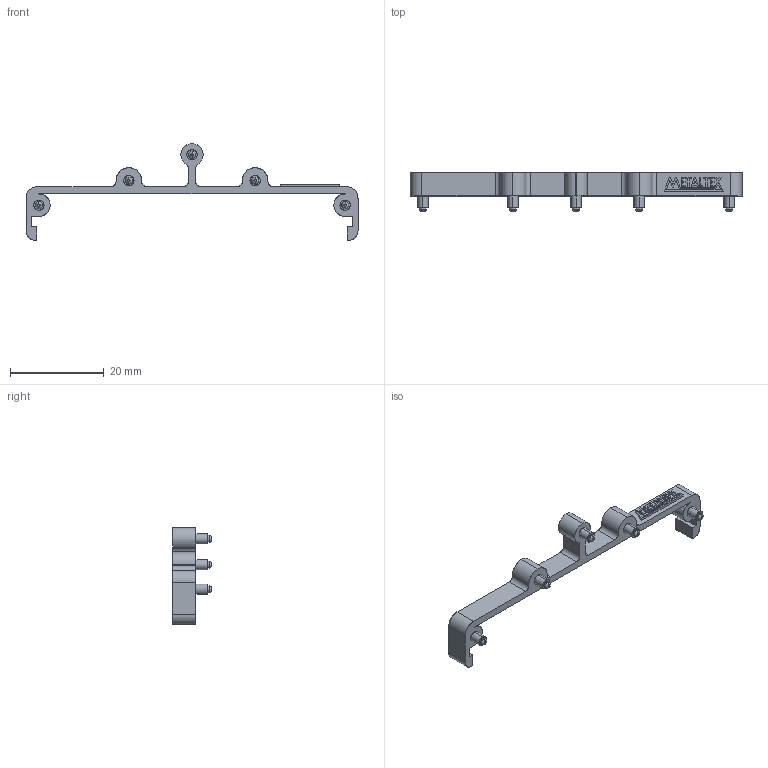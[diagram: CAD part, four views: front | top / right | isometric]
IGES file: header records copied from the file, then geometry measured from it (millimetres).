
Start section: SolidWorks IGES file using analytic representation for surfaces
Global section: file name: D:\X - Arquivos\PROEX\Empresas\P11 - METALTEX\01 - Produtos\IGES\7ª remessa\2ª etapa\SP7-E05.IGS; native system: SolidWorks 2012; preprocessor: SolidWorks 2012; author: Usuario; date: 190912.135103; units: millimetre
Bounding box: 71 x 8.3 x 20.65 mm (x, y, z)
Surface area: 1856.4 mm2 (no closed solid volume)
Topology: 0 solids, 0 shells, 211 faces, 2238 edges, 2238 vertices
Faces by surface type: bspline 151, revolution 60
